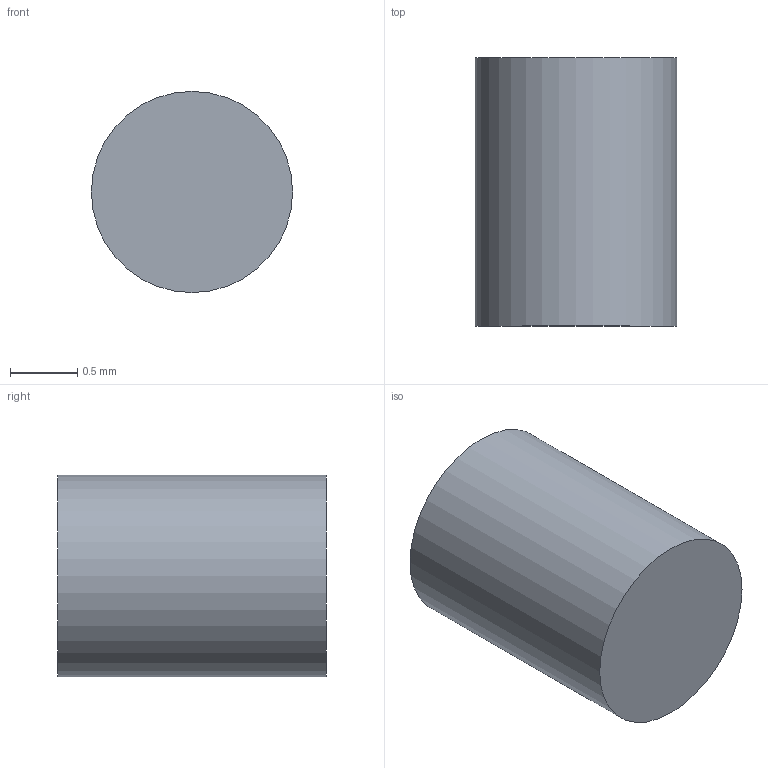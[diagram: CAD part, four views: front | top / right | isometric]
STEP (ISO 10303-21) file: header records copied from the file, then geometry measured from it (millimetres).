
FILE_DESCRIPTION(('Open CASCADE Model'),'2;1');
FILE_NAME('Open CASCADE Shape Model','2026-09-15T14:26:47',('Author'),( 'Open CASCADE'),'Open CASCADE STEP processor 7.7','Open CASCADE 7.7' ,'Unknown');
FILE_SCHEMA(('AUTOMOTIVE_DESIGN { 1 0 10303 214 1 1 1 1 }'));
Length unit declared in the file: millimetre
Products named in the file (1): J9_JOINT_VOLDOWN_SIGNAL_D1p5_ALLOWANCE
Bounding box: 1.5 x 2 x 1.5 mm (x, y, z)
Volume: 3.5 mm3; surface area: 13 mm2
Topology: 1 solids, 1 shells, 3 faces, 3 edges, 2 vertices
Faces by surface type: plane 2, cylinder 1
Full cylindrical faces by diameter (mm): 1.5 x1
Entity records: 108 total; most frequent: DIRECTION 19, CARTESIAN_POINT 15, AXIS2_PLACEMENT_3D 6, ORIENTED_EDGE 6, PCURVE 6, DEFINITIONAL_REPRESENTATION 6, LINE 5, VECTOR 5
